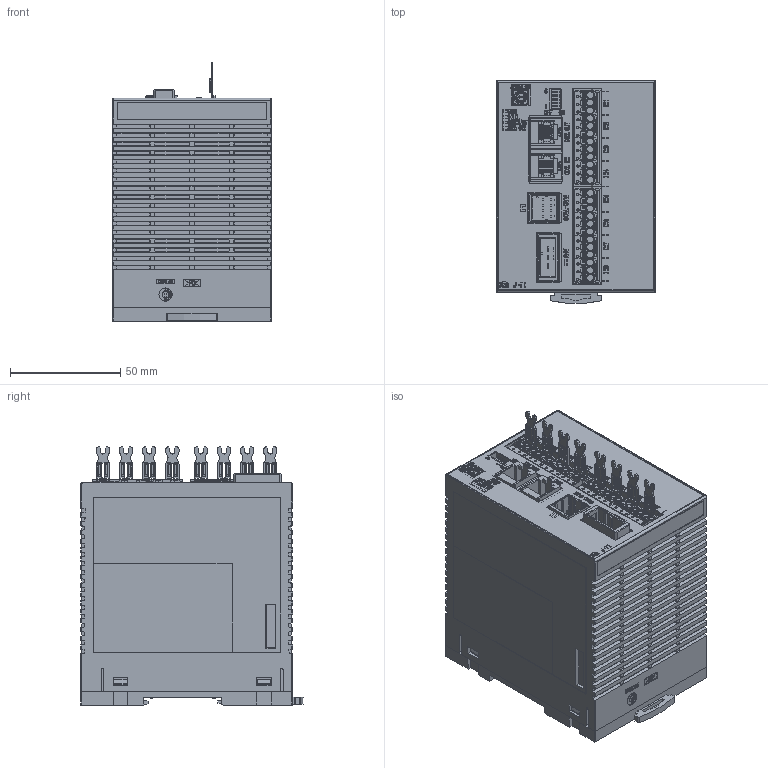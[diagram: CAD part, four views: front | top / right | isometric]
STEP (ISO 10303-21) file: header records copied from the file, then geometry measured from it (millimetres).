
FILE_DESCRIPTION (( 'STEP AP203' ), '1' );
FILE_NAME ('SRJ(J-TI-B)コネクタあり_WEB.STEP', '2017-05-17T09:32:50', ( 'a' ), ( 'Microsoft' ), 'SwSTEP 2.0', 'SolidWorks 2016', '' );
FILE_SCHEMA (( 'CONFIG_CONTROL_DESIGN' ));
Length unit declared in the file: millimetre
Products named in the file (4): SRJ(J-TI-B)コネクタあり_WEB; SRJ(J-TI-B基本設計)_WEB; KSRZ-54(1)_WEB_デフォルト; 2091-1103_web_2091-1103
Assembly tree (10 placements, depth 2):
  SRJ(J-TI-B)コネクタあり_WEB
    SRJ(J-TI-B基本設計)_WEB
    KSRZ-54(1)_WEB_デフォルト
    2091-1103_web_2091-1103  x8
Bounding box: 72 x 100.86 x 117 mm (x, y, z)
Volume: 763644.9 mm3; surface area: 111301.5 mm2
Topology: 11 solids, 16 shells, 9525 faces, 26691 edges, 17520 vertices
Faces by surface type: plane 6949, cylinder 1414, bspline 895, cone 185, torus 78, sphere 4
Entity records: 265331 total; most frequent: CARTESIAN_POINT 81199, ORIENTED_EDGE 41178, DIRECTION 32788, EDGE_CURVE 20589, LINE 16932, VECTOR 16932, VERTEX_POINT 13578, AXIS2_PLACEMENT_3D 7928
